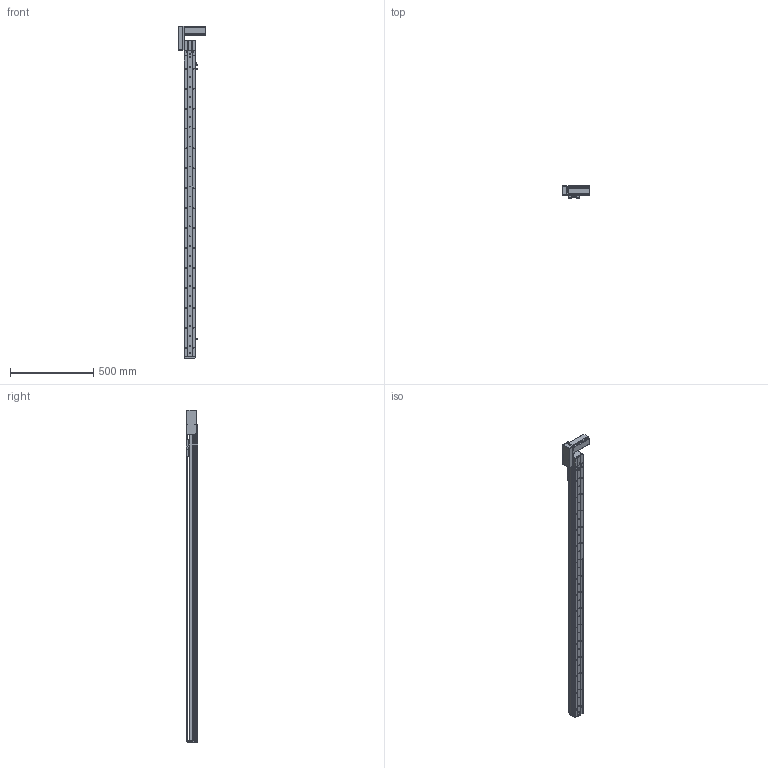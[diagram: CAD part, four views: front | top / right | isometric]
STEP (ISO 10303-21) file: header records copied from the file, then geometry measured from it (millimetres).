
FILE_DESCRIPTION (( 'STEP AP214' ), '1' );
FILE_NAME ('KSD68BS-S1650-MRB-CM.STEP', '2019-11-06T08:03:16', ( '微软用户' ), ( '微软中国' ), 'SwSTEP 2.0', 'SolidWorks 2014', '' );
FILE_SCHEMA (( 'AUTOMOTIVE_DESIGN' ));
Length unit declared in the file: millimetre
Products named in the file (11): 悵誘欶奻狟殏; 68宽马达安装板连板上折同步带; 68宽单导轨半封闭同步带主动轮座右; 68单导轨同步带半封闭端板; KSD68BS 1650俴最裔啣圉猾敕; 覜茼え68遵圉猾敕; KSD68BS半封闭同步带传动导轨座; U倰嫖萇EEㄜSX672; 台达ECMA－C20604AS伺服电机（400W); KSD68BS 1650俴最菁啣圉猾敕; KSD68BS-S1650-MRB-CM
Assembly tree (12 placements, depth 2):
  KSD68BS-S1650-MRB-CM
    KSD68BS 1650俴最菁啣圉猾敕
    台达ECMA－C20604AS伺服电机（400W)
    U倰嫖萇EEㄜSX672  x3
    KSD68BS半封闭同步带传动导轨座
    覜茼え68遵圉猾敕
    KSD68BS 1650俴最裔啣圉猾敕
    68单导轨同步带半封闭端板
    68宽单导轨半封闭同步带主动轮座右
    68宽马达安装板连板上折同步带
    悵誘欶奻狟殏
Bounding box: 167.2 x 70.5 x 1999.5 mm (x, y, z)
Volume: 3190384.4 mm3; surface area: 1187374.8 mm2
Topology: 13 solids, 13 shells, 1608 faces, 4716 edges, 3074 vertices
Faces by surface type: cylinder 850, plane 675, cone 83
Entity records: 62977 total; most frequent: CARTESIAN_POINT 12726, ORIENTED_EDGE 8184, DIRECTION 7902, EDGE_CURVE 4092, AXIS2_PLACEMENT_3D 2850, VERTEX_POINT 2698, VECTOR 2202, LINE 2202
